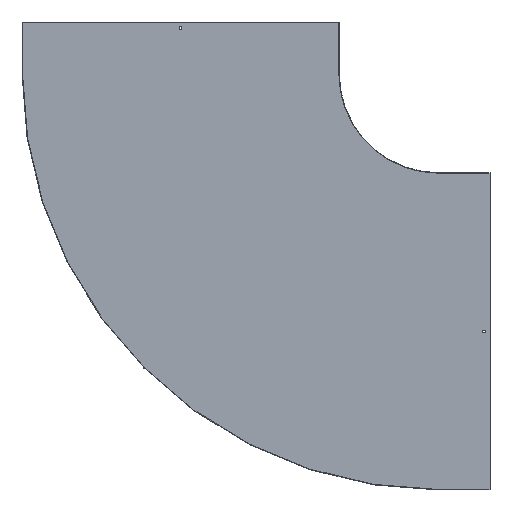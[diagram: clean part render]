
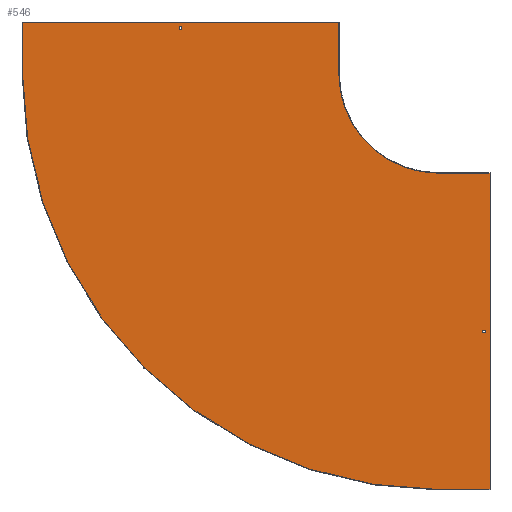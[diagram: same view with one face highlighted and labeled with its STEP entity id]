
A CAD part, front view. The second image highlights one B-rep face of the part: STEP entity #546.
In plain terms, the highlighted planar face has unit normal (0, -1, 0).
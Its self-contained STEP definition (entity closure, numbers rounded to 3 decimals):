
#3 = FACE_OUTER_BOUND ( 'NONE', #73, .T. ) ;
#6 = CARTESIAN_POINT ( 'NONE',  ( 138., -1.5, -746.75 ) ) ;
#8 = CARTESIAN_POINT ( 'NONE',  ( 138., -1.5, 0. ) ) ;
#15 = VERTEX_POINT ( 'NONE', #716 ) ;
#16 = ORIENTED_EDGE ( 'NONE', *, *, #71, .F. ) ;
#28 = CARTESIAN_POINT ( 'NONE',  ( 0., -1.5, -1210. ) ) ;
#31 = EDGE_CURVE ( 'NONE', #563, #622, #842, .T. ) ;
#35 = DIRECTION ( 'NONE',  ( -1., 0., 0. ) ) ;
#39 = VECTOR ( 'NONE', #331, 1000. ) ;
#41 = VECTOR ( 'NONE', #304, 1000. ) ;
#46 = CARTESIAN_POINT ( 'NONE',  ( 129., -1.5, -753.25 ) ) ;
#53 = ORIENTED_EDGE ( 'NONE', *, *, #54, .F. ) ;
#54 = EDGE_CURVE ( 'NONE', #265, #751, #109, .T. ) ;
#55 = AXIS2_PLACEMENT_3D ( 'NONE', #429, #698, #627 ) ;
#57 = VECTOR ( 'NONE', #826, 1000. ) ;
#62 = EDGE_CURVE ( 'NONE', #15, #296, #785, .T. ) ;
#70 = VECTOR ( 'NONE', #623, 1000. ) ;
#71 = EDGE_CURVE ( 'NONE', #434, #265, #368, .T. ) ;
#73 = EDGE_LOOP ( 'NONE', ( #684, #820, #141, #764, #53, #16, #438, #437 ) ) ;
#77 = DIRECTION ( 'NONE',  ( -1., 0., 0. ) ) ;
#87 = VERTEX_POINT ( 'NONE', #46 ) ;
#88 = VERTEX_POINT ( 'NONE', #846 ) ;
#90 = CARTESIAN_POINT ( 'NONE',  ( 0., -1.5, -753.25 ) ) ;
#93 = ORIENTED_EDGE ( 'NONE', *, *, #651, .T. ) ;
#98 = VECTOR ( 'NONE', #77, 1000. ) ;
#100 = CIRCLE ( 'NONE', #750, 1210. ) ;
#107 = DIRECTION ( 'NONE',  ( 1., 0., 0. ) ) ;
#109 = LINE ( 'NONE', #247, #784 ) ;
#110 = DIRECTION ( 'NONE',  ( 1., 0., 0. ) ) ;
#114 = VECTOR ( 'NONE', #530, 1000. ) ;
#119 = DIRECTION ( 'NONE',  ( -1., 0., 0. ) ) ;
#137 = LINE ( 'NONE', #215, #98 ) ;
#139 = LINE ( 'NONE', #8, #719 ) ;
#141 = ORIENTED_EDGE ( 'NONE', *, *, #804, .F. ) ;
#162 = VERTEX_POINT ( 'NONE', #415 ) ;
#173 = CARTESIAN_POINT ( 'NONE',  ( -746.75, -1.5, 129. ) ) ;
#176 = EDGE_CURVE ( 'NONE', #88, #563, #139, .T. ) ;
#179 = CARTESIAN_POINT ( 'NONE',  ( -746.75, -1.5, 0. ) ) ;
#199 = PLANE ( 'NONE',  #221 ) ;
#215 = CARTESIAN_POINT ( 'NONE',  ( 150., -1.5, -1210. ) ) ;
#221 = AXIS2_PLACEMENT_3D ( 'NONE', #534, #803, #663 ) ;
#236 = LINE ( 'NONE', #90, #375 ) ;
#242 = LINE ( 'NONE', #373, #70 ) ;
#247 = CARTESIAN_POINT ( 'NONE',  ( 150., -1.5, -288.5 ) ) ;
#255 = CARTESIAN_POINT ( 'NONE',  ( 0., -1.5, -746.75 ) ) ;
#265 = VERTEX_POINT ( 'NONE', #855 ) ;
#266 = CARTESIAN_POINT ( 'NONE',  ( 129., -1.5, -746.75 ) ) ;
#280 = LINE ( 'NONE', #811, #734 ) ;
#296 = VERTEX_POINT ( 'NONE', #703 ) ;
#297 = VERTEX_POINT ( 'NONE', #774 ) ;
#302 = CARTESIAN_POINT ( 'NONE',  ( -1211.5, -1.5, 150. ) ) ;
#304 = DIRECTION ( 'NONE',  ( 0., 0., 1. ) ) ;
#311 = VERTEX_POINT ( 'NONE', #28 ) ;
#312 = DIRECTION ( 'NONE',  ( 0., 0., -1. ) ) ;
#318 = EDGE_CURVE ( 'NONE', #162, #434, #604, .T. ) ;
#324 = ORIENTED_EDGE ( 'NONE', *, *, #756, .F. ) ;
#331 = DIRECTION ( 'NONE',  ( 0., 0., -1. ) ) ;
#342 = CARTESIAN_POINT ( 'NONE',  ( -1210., -1.5, 0. ) ) ;
#356 = LINE ( 'NONE', #754, #41 ) ;
#368 = LINE ( 'NONE', #506, #390 ) ;
#373 = CARTESIAN_POINT ( 'NONE',  ( -290., -1.5, 150. ) ) ;
#375 = VECTOR ( 'NONE', #107, 1000. ) ;
#377 = DIRECTION ( 'NONE',  ( 1., 0., 0. ) ) ;
#390 = VECTOR ( 'NONE', #377, 1000. ) ;
#405 = DIRECTION ( 'NONE',  ( 0., 0., 1. ) ) ;
#413 = CARTESIAN_POINT ( 'NONE',  ( -753.25, -1.5, 138. ) ) ;
#415 = CARTESIAN_POINT ( 'NONE',  ( -290., -1.5, 0. ) ) ;
#425 = EDGE_CURVE ( 'NONE', #687, #476, #653, .T. ) ;
#426 = ORIENTED_EDGE ( 'NONE', *, *, #625, .T. ) ;
#428 = CARTESIAN_POINT ( 'NONE',  ( -746.75, -1.5, 138. ) ) ;
#429 = CARTESIAN_POINT ( 'NONE',  ( 0., -1.5, 0. ) ) ;
#434 = VERTEX_POINT ( 'NONE', #593 ) ;
#437 = ORIENTED_EDGE ( 'NONE', *, *, #752, .F. ) ;
#438 = ORIENTED_EDGE ( 'NONE', *, *, #318, .F. ) ;
#451 = EDGE_CURVE ( 'NONE', #629, #687, #649, .T. ) ;
#476 = VERTEX_POINT ( 'NONE', #715 ) ;
#498 = ORIENTED_EDGE ( 'NONE', *, *, #425, .T. ) ;
#506 = CARTESIAN_POINT ( 'NONE',  ( 0., -1.5, -290. ) ) ;
#509 = DIRECTION ( 'NONE',  ( 0., 0., -1. ) ) ;
#510 = EDGE_LOOP ( 'NONE', ( #802, #744, #856, #324 ) ) ;
#530 = DIRECTION ( 'NONE',  ( 0., 0., 1. ) ) ;
#531 = EDGE_CURVE ( 'NONE', #297, #15, #612, .T. ) ;
#534 = CARTESIAN_POINT ( 'NONE',  ( 0., -1.5, 0. ) ) ;
#536 = VECTOR ( 'NONE', #119, 1000. ) ;
#539 = FACE_BOUND ( 'NONE', #736, .T. ) ;
#542 = ORIENTED_EDGE ( 'NONE', *, *, #451, .T. ) ;
#546 = ADVANCED_FACE ( 'NONE', ( #665, #3, #539 ), #199, .T. ) ;
#552 = VERTEX_POINT ( 'NONE', #413 ) ;
#557 = VECTOR ( 'NONE', #35, 1000. ) ;
#561 = LINE ( 'NONE', #773, #57 ) ;
#563 = VERTEX_POINT ( 'NONE', #6 ) ;
#574 = DIRECTION ( 'NONE',  ( 1., 0., 0. ) ) ;
#593 = CARTESIAN_POINT ( 'NONE',  ( 0., -1.5, -290. ) ) ;
#596 = EDGE_CURVE ( 'NONE', #751, #311, #137, .T. ) ;
#604 = CIRCLE ( 'NONE', #55, 290. ) ;
#612 = LINE ( 'NONE', #342, #114 ) ;
#622 = VERTEX_POINT ( 'NONE', #266 ) ;
#623 = DIRECTION ( 'NONE',  ( 0., 0., -1. ) ) ;
#625 = EDGE_CURVE ( 'NONE', #552, #629, #280, .T. ) ;
#627 = DIRECTION ( 'NONE',  ( 0., 0., -1. ) ) ;
#629 = VERTEX_POINT ( 'NONE', #428 ) ;
#649 = LINE ( 'NONE', #179, #39 ) ;
#651 = EDGE_CURVE ( 'NONE', #476, #552, #356, .T. ) ;
#653 = LINE ( 'NONE', #711, #536 ) ;
#663 = DIRECTION ( 'NONE',  ( 0., 0., -1. ) ) ;
#665 = FACE_BOUND ( 'NONE', #510, .T. ) ;
#684 = ORIENTED_EDGE ( 'NONE', *, *, #62, .F. ) ;
#687 = VERTEX_POINT ( 'NONE', #173 ) ;
#698 = DIRECTION ( 'NONE',  ( 0., -1., 0. ) ) ;
#700 = EDGE_CURVE ( 'NONE', #87, #88, #236, .T. ) ;
#702 = CARTESIAN_POINT ( 'NONE',  ( 150., -1.5, -1210. ) ) ;
#703 = CARTESIAN_POINT ( 'NONE',  ( -290., -1.5, 150. ) ) ;
#711 = CARTESIAN_POINT ( 'NONE',  ( 0., -1.5, 129. ) ) ;
#714 = DIRECTION ( 'NONE',  ( 0., 1., 0. ) ) ;
#715 = CARTESIAN_POINT ( 'NONE',  ( -753.25, -1.5, 129. ) ) ;
#716 = CARTESIAN_POINT ( 'NONE',  ( -1210., -1.5, 150. ) ) ;
#719 = VECTOR ( 'NONE', #405, 1000. ) ;
#734 = VECTOR ( 'NONE', #110, 1000. ) ;
#736 = EDGE_LOOP ( 'NONE', ( #426, #542, #498, #93 ) ) ;
#744 = ORIENTED_EDGE ( 'NONE', *, *, #176, .F. ) ;
#750 = AXIS2_PLACEMENT_3D ( 'NONE', #780, #714, #312 ) ;
#751 = VERTEX_POINT ( 'NONE', #702 ) ;
#752 = EDGE_CURVE ( 'NONE', #296, #162, #242, .T. ) ;
#754 = CARTESIAN_POINT ( 'NONE',  ( -753.25, -1.5, 0. ) ) ;
#756 = EDGE_CURVE ( 'NONE', #622, #87, #561, .T. ) ;
#764 = ORIENTED_EDGE ( 'NONE', *, *, #596, .F. ) ;
#773 = CARTESIAN_POINT ( 'NONE',  ( 129., -1.5, 0. ) ) ;
#774 = CARTESIAN_POINT ( 'NONE',  ( -1210., -1.5, 0. ) ) ;
#780 = CARTESIAN_POINT ( 'NONE',  ( 0., -1.5, 0. ) ) ;
#784 = VECTOR ( 'NONE', #509, 1000. ) ;
#785 = LINE ( 'NONE', #302, #807 ) ;
#802 = ORIENTED_EDGE ( 'NONE', *, *, #31, .F. ) ;
#803 = DIRECTION ( 'NONE',  ( 0., -1., 0. ) ) ;
#804 = EDGE_CURVE ( 'NONE', #311, #297, #100, .T. ) ;
#807 = VECTOR ( 'NONE', #574, 1000. ) ;
#811 = CARTESIAN_POINT ( 'NONE',  ( 0., -1.5, 138. ) ) ;
#820 = ORIENTED_EDGE ( 'NONE', *, *, #531, .F. ) ;
#826 = DIRECTION ( 'NONE',  ( 0., 0., -1. ) ) ;
#842 = LINE ( 'NONE', #255, #557 ) ;
#846 = CARTESIAN_POINT ( 'NONE',  ( 138., -1.5, -753.25 ) ) ;
#855 = CARTESIAN_POINT ( 'NONE',  ( 150., -1.5, -290. ) ) ;
#856 = ORIENTED_EDGE ( 'NONE', *, *, #700, .F. ) ;
